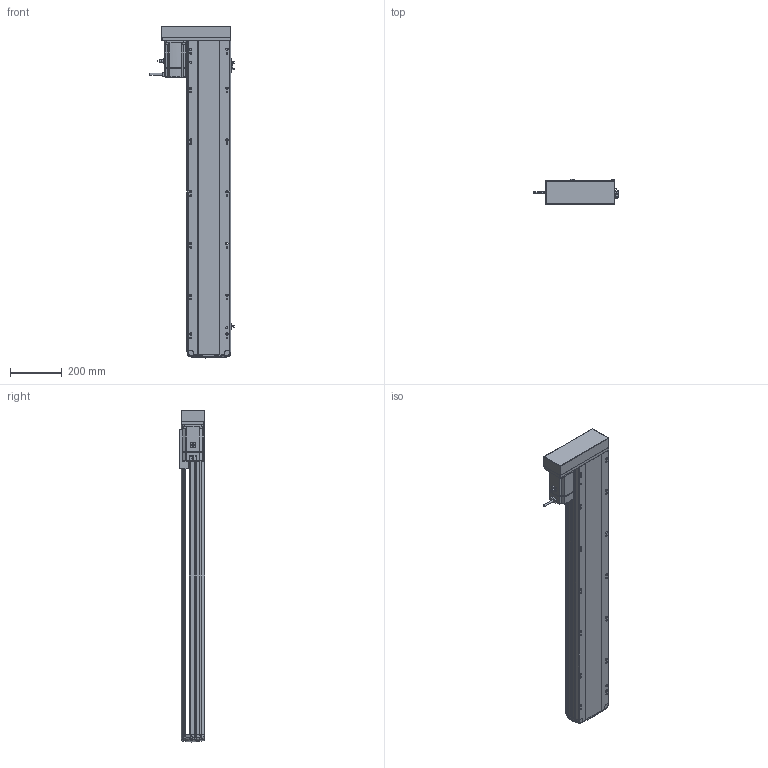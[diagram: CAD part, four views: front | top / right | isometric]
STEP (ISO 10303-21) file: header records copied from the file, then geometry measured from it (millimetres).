
FILE_DESCRIPTION (( 'STEP AP214' ), '1' );
FILE_NAME ('RTH17-XX-1000-R-M75-C4.STEP', '2025-10-24T10:18:45', ( '' ), ( '' ), 'SwSTEP 2.0', 'SolidWorks 2018', '' );
FILE_SCHEMA (( 'AUTOMOTIVE_DESIGN' ));
Length unit declared in the file: millimetre
Products named in the file (10): N_RTH17-M-007上盖^RTH17-XX-XX-R-M75-C4（方程式）; N_RTH17-GY-001P^RTH17-XX-XX-R-M75-C4（方程式）; N_RTH17-L-008-P75电机安装板左转折^RTH17-XX-XX-R-M75-C4（方程式）; N_RTH17-M-011底座^RTH17-XX-XX-R-M75-C4（方程式）; N_M75^RTH17-XX-XX-R-M75-C4（方程式）; RTH17-XX-1000-R-M75-C4; N_OMRON EE-SX672 換覜ん^RTH17-XX-XX-R-M75-C4ㄗ源最宒ㄘ; N_RTH17-E-004丝杆螺母连接座^RTH17-XX-XX-R-M75-C4（方程式）; N_RTH-L-012 感应片(外置)^RTH17-XX-XX-R-M75-C4（方程式）; N_RTH17-L-018盖子^RTH17-XX-XX-R-M75-C4（方程式）
Assembly tree (11 placements, depth 2):
  RTH17-XX-1000-R-M75-C4
    N_RTH17-M-011底座^RTH17-XX-XX-R-M75-C4（方程式）
    N_RTH17-M-007上盖^RTH17-XX-XX-R-M75-C4（方程式）
    N_M75^RTH17-XX-XX-R-M75-C4（方程式）
    N_OMRON EE-SX672 換覜ん^RTH17-XX-XX-R-M75-C4ㄗ源最宒ㄘ  x3
    N_RTH-L-012 感应片(外置)^RTH17-XX-XX-R-M75-C4（方程式）
    N_RTH17-L-008-P75电机安装板左转折^RTH17-XX-XX-R-M75-C4（方程式）
    N_RTH17-L-018盖子^RTH17-XX-XX-R-M75-C4（方程式）
    N_RTH17-E-004丝杆螺母连接座^RTH17-XX-XX-R-M75-C4（方程式）
    N_RTH17-GY-001P^RTH17-XX-XX-R-M75-C4（方程式）
Bounding box: 326.2 x 97 x 1282.99 mm (x, y, z)
Volume: 11259087.1 mm3; surface area: 1409901.5 mm2
Topology: 13 solids, 15 shells, 1773 faces, 4889 edges, 3166 vertices
Faces by surface type: plane 835, cylinder 524, bspline 377, cone 28, torus 9
Entity records: 51993 total; most frequent: CARTESIAN_POINT 20749, ORIENTED_EDGE 6802, DIRECTION 5653, EDGE_CURVE 3405, VERTEX_POINT 2202, AXIS2_PLACEMENT_3D 1909, VECTOR 1835, LINE 1835
